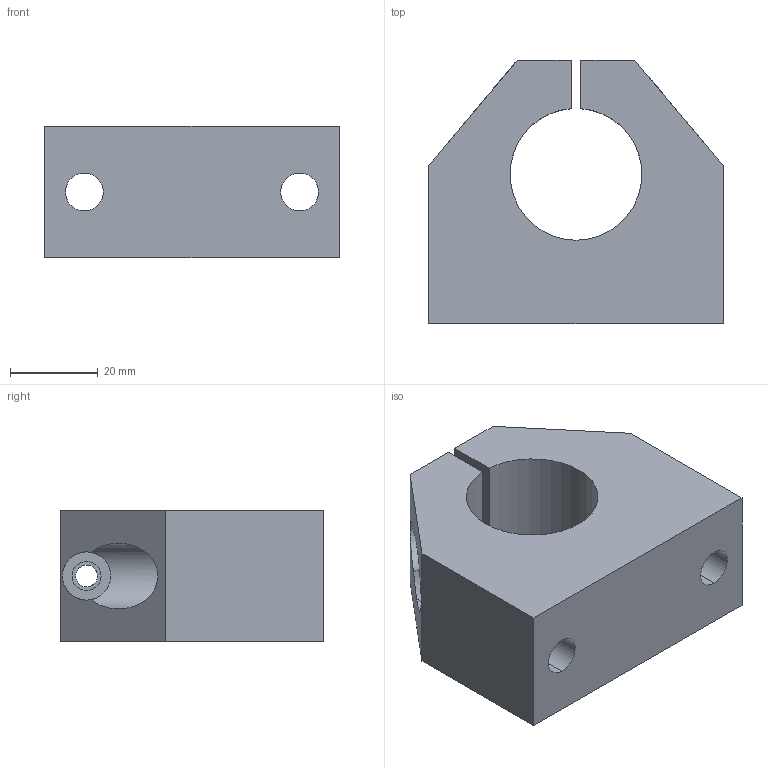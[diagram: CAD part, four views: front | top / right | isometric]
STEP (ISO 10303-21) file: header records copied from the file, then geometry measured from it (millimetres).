
FILE_DESCRIPTION (( 'STEP AP214' ), '1' );
FILE_NAME ('KWBC58-30.step', '2020-03-04T13:12:06', ( '' ), ( '' ), 'SwSTEP 2.0', 'SolidWorks 2019', '' );
FILE_SCHEMA (( 'AUTOMOTIVE_DESIGN' ));
Length unit declared in the file: millimetre
Products named in the file (1): KWBC58-30
Bounding box: 67 x 60 x 30 mm (x, y, z)
Volume: 73270.6 mm3; surface area: 19179 mm2
Topology: 1 solids, 1 shells, 31 faces, 84 edges, 56 vertices
Faces by surface type: cylinder 17, plane 14
Entity records: 1167 total; most frequent: CARTESIAN_POINT 276, ORIENTED_EDGE 168, DIRECTION 160, EDGE_CURVE 84, AXIS2_PLACEMENT_3D 58, VERTEX_POINT 56, VECTOR 44, LINE 44
